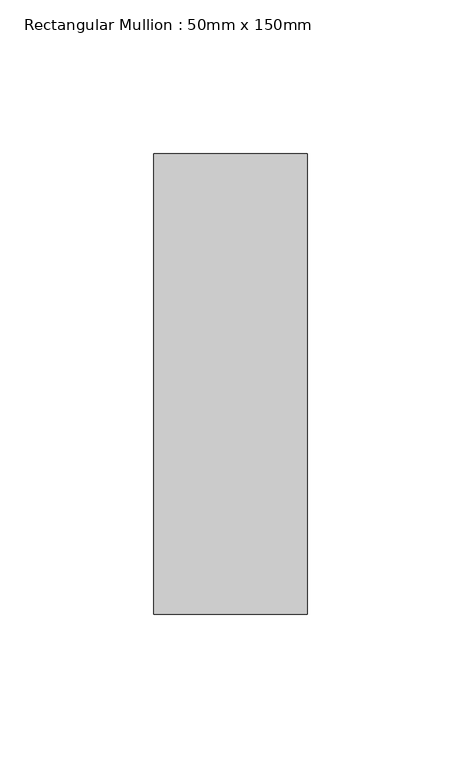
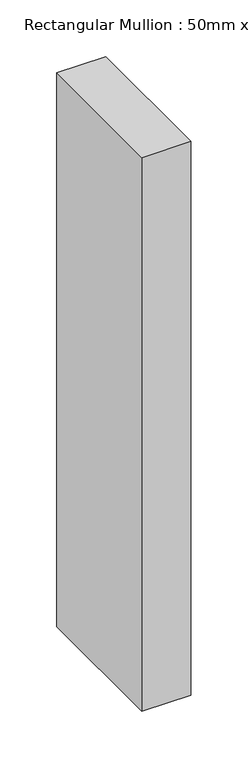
"""IFC4 building model written with IfcOpenShell, lengths in millimetres: member geometry, Rectangular Mullion : 50mm x 150mm."""

from ifc_helpers import new_model, si_unit, frame, origin, place, context, project, spatial, polyline, outline, extrude, source, transform, mapped, element, save


def rectangular_mullion_50mm_x_150mm_ae680e05(model_context):
    return source(origin(), model_context, "Body", "SweptSolid", [
        extrude(outline(polyline([(25.0, 75.0), (25.0, -75.0), (-25.0, -75.0), (-25.0, 75.0), (25.0, 75.0)])), frame((0.0, 0.0, -595.9168295), z_axis=(0.0, 0.0, 1.0), x_axis=(1.0, 0.0, 0.0)), (0.0, 0.0, 1.0), 595.9168295),
    ])


if __name__ == "__main__":
    model = new_model("IFC4")
    model_context = context("Model", 3, world=origin())
    ifc_project = project(units=[si_unit("LENGTHUNIT", "METRE", prefix="MILLI")], contexts=[model_context])
    site = spatial("IfcSite", under=ifc_project)
    building = spatial("IfcBuilding", under=site)
    placement = place(None, origin())
    rectangular_mullion_50mm_x_150mm_shape = rectangular_mullion_50mm_x_150mm_ae680e05(model_context)
    element("IfcMember", 1, ObjectType="Rectangular Mullion : 50mm x 150mm", at=placement, inside=building, context=model_context, shape_type="MappedRepresentation", body=[
        mapped(rectangular_mullion_50mm_x_150mm_shape, transform((0.0, 0.0, 0.0), x_axis=(1.0, 0.0, 0.0), y_axis=(0.0, 1.0, 0.0), z_axis=(0.0, 0.0, 1.0))),
    ])
    save(model, "model.ifc")
